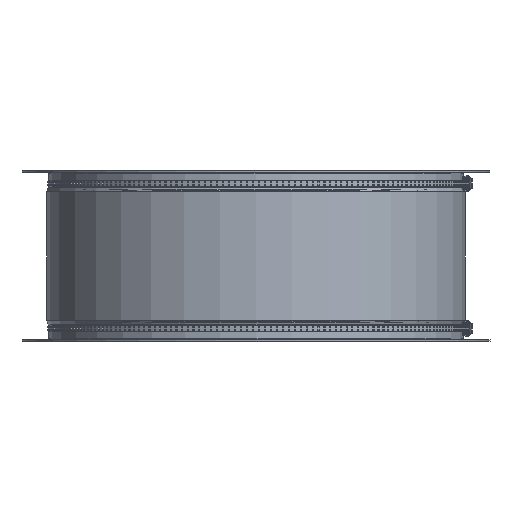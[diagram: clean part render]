
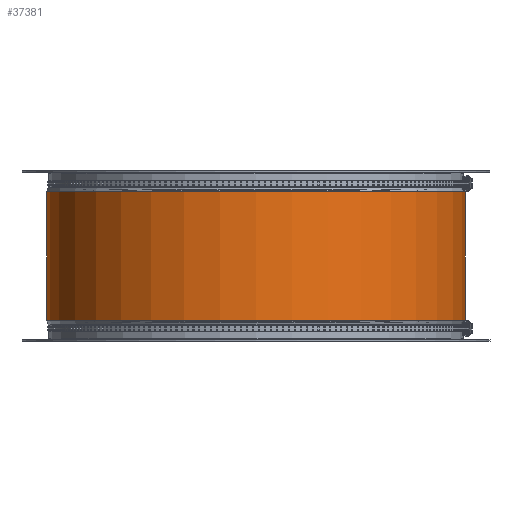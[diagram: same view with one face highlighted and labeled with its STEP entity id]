
A CAD part, front view. The second image highlights one B-rep face of the part: STEP entity #37381.
In plain terms, the highlighted cylindrical face has radius 319.5 mm (diameter 639 mm), a full revolution.
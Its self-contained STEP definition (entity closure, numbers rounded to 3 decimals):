
#8865=FACE_BOUND('',#11408,.T.);
#9187=FACE_OUTER_BOUND('',#11407,.T.);
#11407=EDGE_LOOP('',(#25127));
#11408=EDGE_LOOP('',(#25128));
#13847=CIRCLE('',#39816,319.5);
#13848=CIRCLE('',#39817,319.5);
#15381=VERTEX_POINT('',#54525);
#15382=VERTEX_POINT('',#54527);
#19254=EDGE_CURVE('',#15381,#15381,#13847,.T.);
#19255=EDGE_CURVE('',#15382,#15382,#13848,.T.);
#25127=ORIENTED_EDGE('',*,*,#19254,.F.);
#25128=ORIENTED_EDGE('',*,*,#19255,.F.);
#36366=CYLINDRICAL_SURFACE('',#39815,319.5);
#37381=ADVANCED_FACE('',(#9187,#8865),#36366,.T.);
#39815=AXIS2_PLACEMENT_3D('',#54524,#43738,#43739);
#39816=AXIS2_PLACEMENT_3D('',#54526,#43740,#43741);
#39817=AXIS2_PLACEMENT_3D('',#54528,#43742,#43743);
#43738=DIRECTION('center_axis',(0.,0.,1.));
#43739=DIRECTION('ref_axis',(-1.,0.,0.));
#43740=DIRECTION('center_axis',(0.,0.,-1.));
#43741=DIRECTION('ref_axis',(-1.,0.,0.));
#43742=DIRECTION('center_axis',(0.,0.,1.));
#43743=DIRECTION('ref_axis',(-1.,0.,0.));
#54524=CARTESIAN_POINT('Origin',(0.,0.,0.));
#54525=CARTESIAN_POINT('',(319.5,0.,-98.));
#54526=CARTESIAN_POINT('Origin',(0.,0.,-98.));
#54527=CARTESIAN_POINT('',(319.5,0.,98.));
#54528=CARTESIAN_POINT('Origin',(0.,0.,98.));
